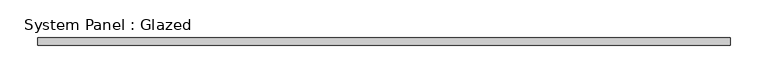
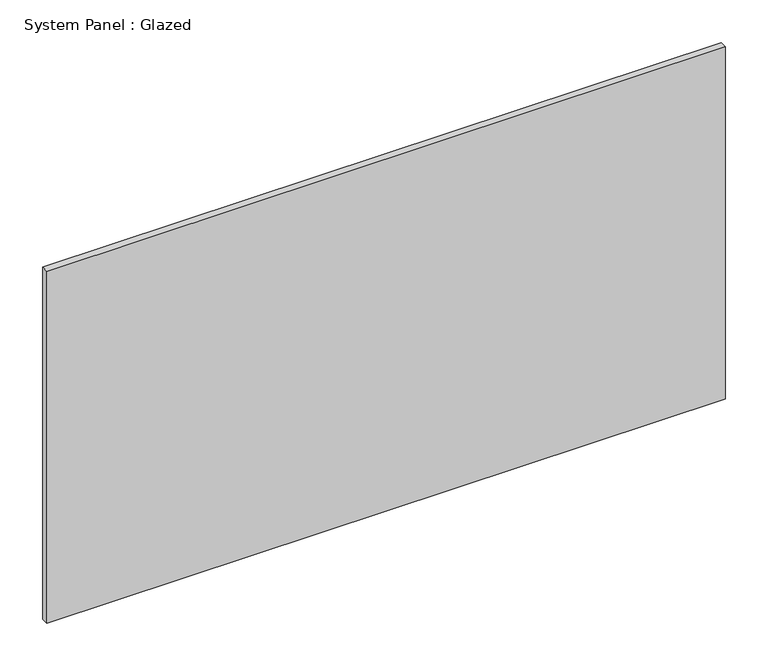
"""IFC4 building model written with IfcOpenShell, lengths in millimetres: plate geometry, System Panel : Glazed."""

from ifc_helpers import new_model, si_unit, origin, origin_with_axes, place, context, project, spatial, polyline, outline, extrude, source, transform, mapped, element, save


def system_panel_glazed_0a5ee570(model_context):
    return source(origin(), model_context, "Body", "SweptSolid", [
        extrude(outline(polyline([(460.0825808, -5.0), (-460.0825808, -5.0), (-460.0825808, 5.0), (460.0825808, 5.0), (460.0825808, -5.0)])), origin_with_axes(), (0.0, 0.0, 1.0), 505.0),
    ])


if __name__ == "__main__":
    model = new_model("IFC4")
    model_context = context("Model", 3, world=origin())
    ifc_project = project(units=[si_unit("LENGTHUNIT", "METRE", prefix="MILLI")], contexts=[model_context])
    site = spatial("IfcSite", under=ifc_project)
    building = spatial("IfcBuilding", under=site)
    placement = place(None, origin())
    system_panel_glazed_shape = system_panel_glazed_0a5ee570(model_context)
    element("IfcPlate", 1, ObjectType="System Panel : Glazed", at=placement, inside=building, context=model_context, shape_type="MappedRepresentation", body=[
        mapped(system_panel_glazed_shape, transform((0.0, 0.0, 0.0), x_axis=(1.0, 0.0, 0.0), y_axis=(0.0, 1.0, 0.0), z_axis=(0.0, 0.0, 1.0))),
    ])
    save(model, "model.ifc")
